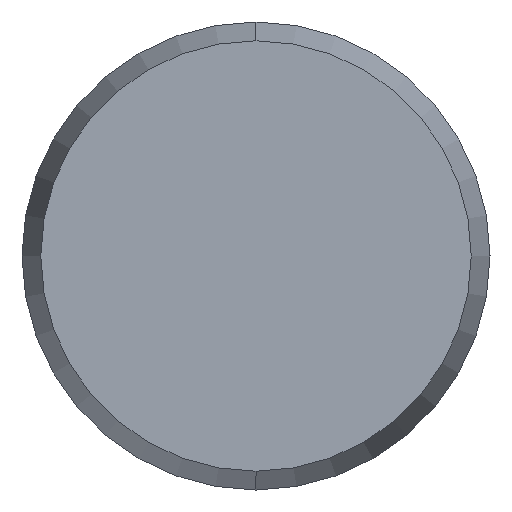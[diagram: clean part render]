
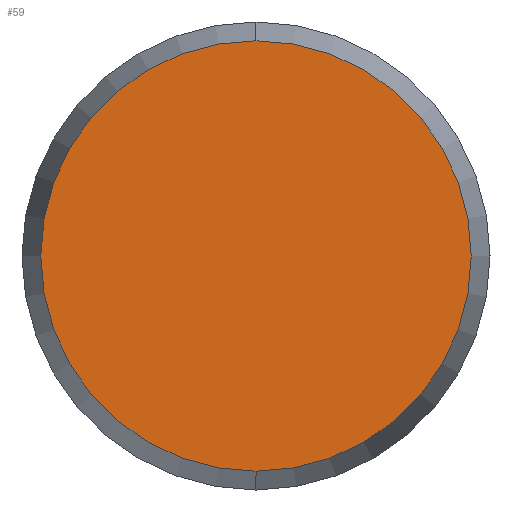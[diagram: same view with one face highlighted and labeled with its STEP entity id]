
A CAD part, left-side view. The second image highlights one B-rep face of the part: STEP entity #59.
In plain terms, the highlighted planar face has unit normal (-1, 0, 0).
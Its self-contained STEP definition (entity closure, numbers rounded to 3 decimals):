
#9 = CARTESIAN_POINT ( 'NONE',  ( -12., 0., -4.598 ) ) ;
#10 = DIRECTION ( 'NONE',  ( 0., 0., -1. ) ) ;
#11 = DIRECTION ( 'NONE',  ( 1., 0., 0. ) ) ;
#12 = CARTESIAN_POINT ( 'NONE',  ( -12., 0., 0. ) ) ;
#13 = AXIS2_PLACEMENT_3D ( 'NONE', #12, #11, #10 ) ;
#14 = CIRCLE ( 'NONE', #13, 4.598 ) ;
#53 = DIRECTION ( 'NONE',  ( 0., 0., -1. ) ) ;
#54 = DIRECTION ( 'NONE',  ( 1., 0., 0. ) ) ;
#55 = CARTESIAN_POINT ( 'NONE',  ( -12., 0., 0. ) ) ;
#56 = AXIS2_PLACEMENT_3D ( 'NONE', #55, #54, #53 ) ;
#57 = PLANE ( 'NONE',  #56 ) ;
#59 = ADVANCED_FACE ( 'NONE', ( #93 ), #57, .F. ) ;
#60 = EDGE_LOOP ( 'NONE', ( #61, #62 ) ) ;
#61 = ORIENTED_EDGE ( 'NONE', *, *, #74, .F. ) ;
#62 = ORIENTED_EDGE ( 'NONE', *, *, #124, .F. ) ;
#74 = EDGE_CURVE ( 'NONE', #89, #75, #14, .T. ) ;
#75 = VERTEX_POINT ( 'NONE', #9 ) ;
#89 = VERTEX_POINT ( 'NONE', #157 ) ;
#93 = FACE_OUTER_BOUND ( 'NONE', #60, .T. ) ;
#124 = EDGE_CURVE ( 'NONE', #75, #89, #266, .T. ) ;
#157 = CARTESIAN_POINT ( 'NONE',  ( -12., 0., 4.598 ) ) ;
#262 = DIRECTION ( 'NONE',  ( 1., 0., 0. ) ) ;
#263 = CARTESIAN_POINT ( 'NONE',  ( -12., 0., 0. ) ) ;
#264 = AXIS2_PLACEMENT_3D ( 'NONE', #263, #262, #270 ) ;
#266 = CIRCLE ( 'NONE', #264, 4.598 ) ;
#270 = DIRECTION ( 'NONE',  ( 0., 0., -1. ) ) ;
